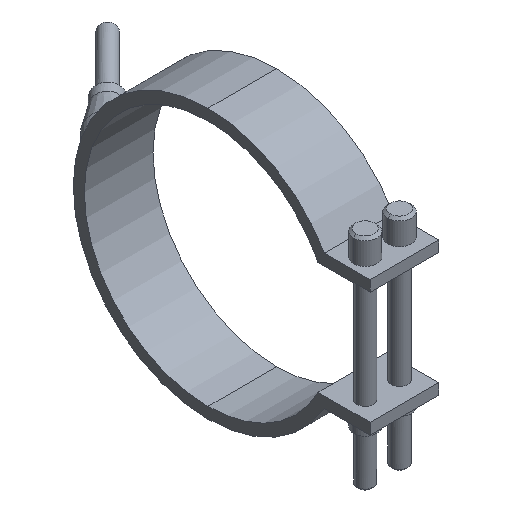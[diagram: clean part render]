
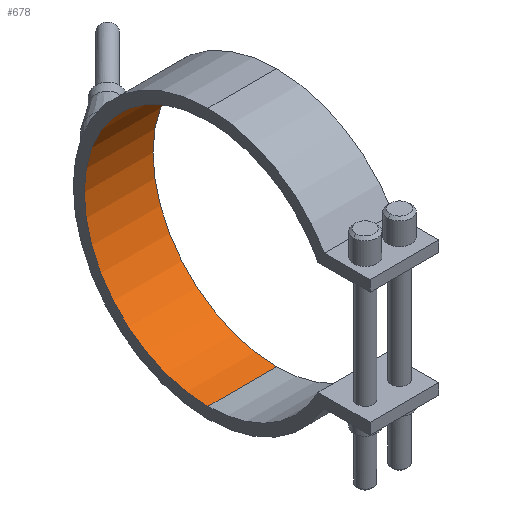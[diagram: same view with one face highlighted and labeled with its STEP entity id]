
A CAD part, isometric view. The second image highlights one B-rep face of the part: STEP entity #678.
In plain terms, the highlighted cylindrical face has radius 45 mm (diameter 90 mm), a partial arc.
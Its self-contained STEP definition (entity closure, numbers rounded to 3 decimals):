
#348=CARTESIAN_POINT('Vertex',(12.5,0.,45.)) ;
#353=CARTESIAN_POINT('Axis2P3D Location',(12.5,0.,0.)) ;
#357=CARTESIAN_POINT('Vertex',(12.5,0.,-45.)) ;
#464=CARTESIAN_POINT('Vertex',(-12.5,0.,-45.)) ;
#467=CARTESIAN_POINT('Axis2P3D Location',(-12.5,0.,0.)) ;
#471=CARTESIAN_POINT('Vertex',(-12.5,0.,45.)) ;
#650=CARTESIAN_POINT('Line Origine',(12.5,0.,45.)) ;
#662=CARTESIAN_POINT('Axis2P3D Location',(12.5,0.,0.)) ;
#667=CARTESIAN_POINT('Line Origine',(12.5,0.,-45.)) ;
#354=DIRECTION('Axis2P3D Direction',(1.,0.,0.)) ;
#468=DIRECTION('Axis2P3D Direction',(1.,0.,0.)) ;
#651=DIRECTION('Vector Direction',(1.,0.,0.)) ;
#663=DIRECTION('Axis2P3D Direction',(1.,0.,-0.)) ;
#664=DIRECTION('Axis2P3D XDirection',(0.,0.,-1.)) ;
#668=DIRECTION('Vector Direction',(1.,0.,0.)) ;
#355=AXIS2_PLACEMENT_3D('Circle Axis2P3D',#353,#354,$) ;
#469=AXIS2_PLACEMENT_3D('Circle Axis2P3D',#467,#468,$) ;
#665=AXIS2_PLACEMENT_3D('Cylinder Axis2P3D',#662,#663,#664) ;
#673=ORIENTED_EDGE('',*,*,#359,.T.) ;
#674=ORIENTED_EDGE('',*,*,#654,.T.) ;
#675=ORIENTED_EDGE('',*,*,#473,.F.) ;
#676=ORIENTED_EDGE('',*,*,#671,.T.) ;
#652=VECTOR('Line Direction',#651,1.) ;
#669=VECTOR('Line Direction',#668,1.) ;
#678=ADVANCED_FACE('29090025',(#677),#666,.F.) ;
#356=CIRCLE('generated circle',#355,45.) ;
#470=CIRCLE('generated circle',#469,45.) ;
#666=CYLINDRICAL_SURFACE('generated cylinder',#665,45.) ;
#359=EDGE_CURVE('',#358,#349,#356,.T.) ;
#473=EDGE_CURVE('',#465,#472,#470,.T.) ;
#654=EDGE_CURVE('',#349,#472,#653,.F.) ;
#671=EDGE_CURVE('',#465,#358,#670,.T.) ;
#672=EDGE_LOOP('',(#673,#674,#675,#676)) ;
#677=FACE_OUTER_BOUND('',#672,.T.) ;
#653=LINE('Line',#650,#652) ;
#670=LINE('Line',#667,#669) ;
#349=VERTEX_POINT('',#348) ;
#358=VERTEX_POINT('',#357) ;
#465=VERTEX_POINT('',#464) ;
#472=VERTEX_POINT('',#471) ;
